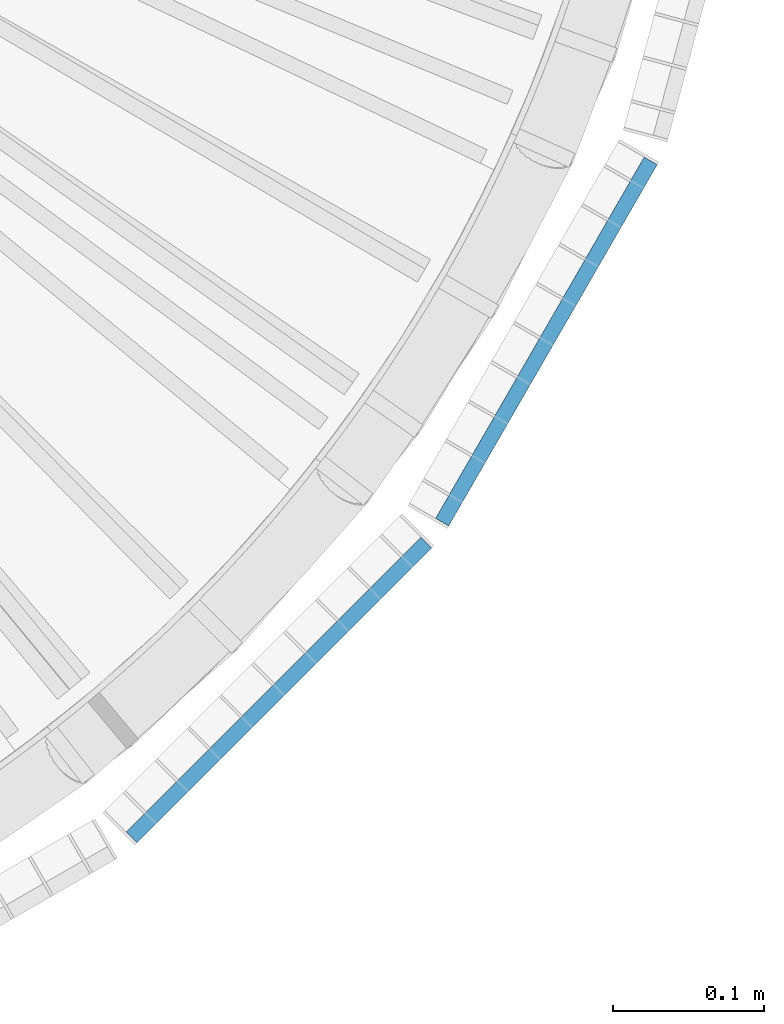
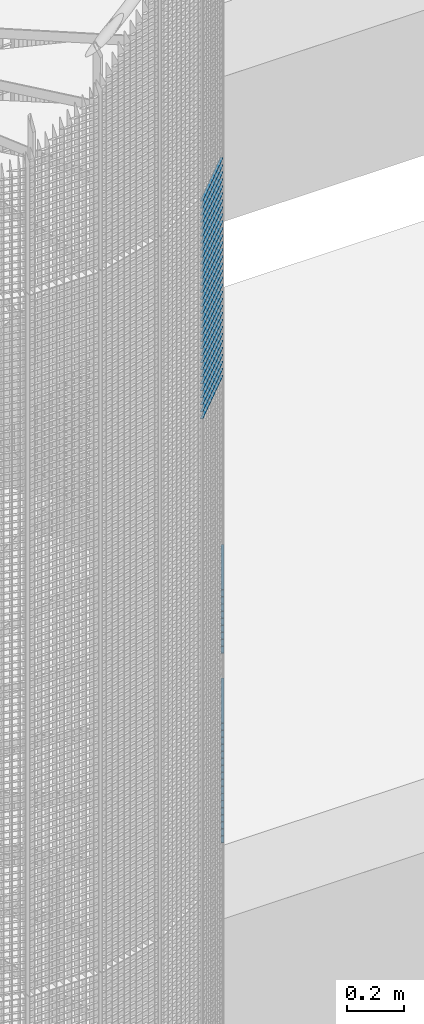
# One storey, part 236 of 1148: 60 beams, 2 elements without a shape of their own.
"""IFC2X3 building model written with IfcOpenShell, lengths in millimetres."""

from ifc_helpers import new_model, si_unit, frame, origin_with_axes, origin_2d_with_axis, place, context, subcontext, project, spatial, rectangle, extrude, material, type_object, element, aggregate, save


model = new_model("IFC2X3")

# Units and contexts
model_context = context("Model", 3, precision=1e-05, world=origin_with_axes())
body_context = subcontext(model_context, "Body", "Model", "MODEL_VIEW")
ifc_project = project(units=[si_unit("LENGTHUNIT", "METRE", prefix="MILLI"), si_unit("AREAUNIT", "SQUARE_METRE"), si_unit("VOLUMEUNIT", "CUBIC_METRE"), si_unit("MASSUNIT", "GRAM", prefix="KILO"), si_unit("TIMEUNIT", "SECOND"), si_unit("PLANEANGLEUNIT", "RADIAN"), si_unit("SOLIDANGLEUNIT", "STERADIAN"), si_unit("THERMODYNAMICTEMPERATUREUNIT", "DEGREE_CELSIUS"), si_unit("LUMINOUSINTENSITYUNIT", "LUMEN")], contexts=[model_context])

# Site, building, storey
site_placement = place(None, origin_with_axes())
site = spatial("IfcSite", under=ifc_project, at=site_placement, Name="Undefined", CompositionType="ELEMENT")
building_placement = place(site_placement, origin_with_axes())
building = spatial("IfcBuilding", under=site, at=building_placement, Name="Undefined", CompositionType="ELEMENT")
storey_placement = place(building_placement, origin_with_axes())
storey = spatial("IfcBuildingStorey", under=building, at=storey_placement, Name="Undefined", CompositionType="ELEMENT", Elevation=0.0)

# Assembly, beams
assembly_1_placement = place(storey_placement, origin_with_axes())
assembly_1 = element("IfcElementAssembly", 1, at=assembly_1_placement, inside=storey, Name="BORDURE", AssemblyPlace="NOTDEFINED", PredefinedType="NOTDEFINED")
ifc_material = material(Name="STEEL/S235JR")
beam_type = type_object("IfcBeamType", Name="PL2*10", PredefinedType="NOTDEFINED")
beam_1_placement = place(assembly_1_placement, frame((895.30396491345, -676.248044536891, 9540.0), z_axis=(0.866025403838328, -0.49999999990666, 0.0), x_axis=(0.49999999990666, 0.866025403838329, 0.0)))
beam_1 = element("IfcBeam", 2, at=beam_1_placement, type_object=beam_type, material=ifc_material, Name="ENTRETOISE", context=body_context, shape_type="SweptSolid", body=[
    extrude(rectangle(XDim=2.0, YDim=10.0, at=origin_2d_with_axis()), frame((275.999999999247, 9.09494701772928e-13, 1.53210777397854e-14), z_axis=(-1.0, 0.0, 0.0), x_axis=(0.0, -1.0, 0.0)), (0.0, 0.0, 1.0), 276.0),
])
beam_2_placement = place(assembly_1_placement, frame((895.303964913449, -676.248044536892, 9840.0), z_axis=(0.866025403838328, -0.49999999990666, 0.0), x_axis=(0.49999999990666, 0.866025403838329, 0.0)))
beam_2 = element("IfcBeam", 3, at=beam_2_placement, type_object=beam_type, material=ifc_material, Name="ENTRETOISE", context=body_context, shape_type="SweptSolid", body=[
    extrude(rectangle(XDim=2.0, YDim=10.0, at=origin_2d_with_axis()), frame((275.999999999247, 9.09494701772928e-13, 1.53210777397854e-14), z_axis=(-1.0, 0.0, 0.0), x_axis=(0.0, -1.0, 0.0)), (0.0, 0.0, 1.0), 276.0),
])
beam_3_placement = place(assembly_1_placement, frame((895.303964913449, -676.248044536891, 9510.0), z_axis=(0.866025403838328, -0.49999999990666, 0.0), x_axis=(0.49999999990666, 0.866025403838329, 0.0)))
beam_3 = element("IfcBeam", 4, at=beam_3_placement, type_object=beam_type, material=ifc_material, Name="ENTRETOISE", context=body_context, shape_type="SweptSolid", body=[
    extrude(rectangle(XDim=2.0, YDim=10.0, at=origin_2d_with_axis()), frame((275.999999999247, 9.09494701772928e-13, 1.53210777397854e-14), z_axis=(-1.0, 0.0, 0.0), x_axis=(0.0, -1.0, 0.0)), (0.0, 0.0, 1.0), 276.0),
])
beam_4_placement = place(assembly_1_placement, frame((895.303964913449, -676.248044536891, 9480.0), z_axis=(0.866025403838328, -0.49999999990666, 0.0), x_axis=(0.49999999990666, 0.866025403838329, 0.0)))
beam_4 = element("IfcBeam", 5, at=beam_4_placement, type_object=beam_type, material=ifc_material, Name="ENTRETOISE", context=body_context, shape_type="SweptSolid", body=[
    extrude(rectangle(XDim=2.0, YDim=10.0, at=origin_2d_with_axis()), frame((275.999999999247, 9.09494701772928e-13, 1.53210777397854e-14), z_axis=(-1.0, 0.0, 0.0), x_axis=(0.0, -1.0, 0.0)), (0.0, 0.0, 1.0), 276.0),
])
beam_5_placement = place(assembly_1_placement, frame((895.303964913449, -676.248044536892, 9870.0), z_axis=(0.866025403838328, -0.49999999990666, 0.0), x_axis=(0.49999999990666, 0.866025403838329, 0.0)))
beam_5 = element("IfcBeam", 6, at=beam_5_placement, type_object=beam_type, material=ifc_material, Name="ENTRETOISE", context=body_context, shape_type="SweptSolid", body=[
    extrude(rectangle(XDim=2.0, YDim=10.0, at=origin_2d_with_axis()), frame((275.999999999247, 9.09494701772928e-13, 1.53210777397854e-14), z_axis=(-1.0, 0.0, 0.0), x_axis=(0.0, -1.0, 0.0)), (0.0, 0.0, 1.0), 276.0),
])
beam_6_placement = place(assembly_1_placement, frame((895.30396491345, -676.248044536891, 9450.0), z_axis=(0.866025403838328, -0.49999999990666, 0.0), x_axis=(0.49999999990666, 0.866025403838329, 0.0)))
beam_6 = element("IfcBeam", 7, at=beam_6_placement, type_object=beam_type, material=ifc_material, Name="ENTRETOISE", context=body_context, shape_type="SweptSolid", body=[
    extrude(rectangle(XDim=2.0, YDim=10.0, at=origin_2d_with_axis()), frame((275.999999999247, 9.09494701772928e-13, 1.53210777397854e-14), z_axis=(-1.0, 0.0, 0.0), x_axis=(0.0, -1.0, 0.0)), (0.0, 0.0, 1.0), 276.0),
])
beam_7_placement = place(assembly_1_placement, frame((895.30396491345, -676.24804453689, 9420.0), z_axis=(0.866025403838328, -0.49999999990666, 0.0), x_axis=(0.49999999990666, 0.866025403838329, 0.0)))
beam_7 = element("IfcBeam", 8, at=beam_7_placement, type_object=beam_type, material=ifc_material, Name="ENTRETOISE", context=body_context, shape_type="SweptSolid", body=[
    extrude(rectangle(XDim=2.0, YDim=10.0, at=origin_2d_with_axis()), frame((275.999999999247, 9.09494701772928e-13, 1.53210777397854e-14), z_axis=(-1.0, 0.0, 0.0), x_axis=(0.0, -1.0, 0.0)), (0.0, 0.0, 1.0), 276.0),
])
beam_8_placement = place(assembly_1_placement, frame((895.303964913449, -676.248044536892, 9900.0), z_axis=(0.866025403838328, -0.49999999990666, 0.0), x_axis=(0.49999999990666, 0.866025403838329, 0.0)))
beam_8 = element("IfcBeam", 9, at=beam_8_placement, type_object=beam_type, material=ifc_material, Name="ENTRETOISE", context=body_context, shape_type="SweptSolid", body=[
    extrude(rectangle(XDim=2.0, YDim=10.0, at=origin_2d_with_axis()), frame((275.999999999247, 9.09494701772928e-13, 1.53210777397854e-14), z_axis=(-1.0, 0.0, 0.0), x_axis=(0.0, -1.0, 0.0)), (0.0, 0.0, 1.0), 276.0),
])
beam_9_placement = place(assembly_1_placement, frame((895.30396491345, -676.24804453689, 9390.0), z_axis=(0.866025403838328, -0.49999999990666, 0.0), x_axis=(0.49999999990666, 0.866025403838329, 0.0)))
beam_9 = element("IfcBeam", 10, at=beam_9_placement, type_object=beam_type, material=ifc_material, Name="ENTRETOISE", context=body_context, shape_type="SweptSolid", body=[
    extrude(rectangle(XDim=2.0, YDim=10.0, at=origin_2d_with_axis()), frame((275.999999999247, 9.09494701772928e-13, 1.53210777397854e-14), z_axis=(-1.0, 0.0, 0.0), x_axis=(0.0, -1.0, 0.0)), (0.0, 0.0, 1.0), 276.0),
])
beam_10_placement = place(assembly_1_placement, frame((895.303964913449, -676.248044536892, 9930.0), z_axis=(0.866025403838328, -0.49999999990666, 0.0), x_axis=(0.49999999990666, 0.866025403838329, 0.0)))
beam_10 = element("IfcBeam", 11, at=beam_10_placement, type_object=beam_type, material=ifc_material, Name="ENTRETOISE", context=body_context, shape_type="SweptSolid", body=[
    extrude(rectangle(XDim=2.0, YDim=10.0, at=origin_2d_with_axis()), frame((275.999999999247, 9.09494701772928e-13, 1.53210777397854e-14), z_axis=(-1.0, 0.0, 0.0), x_axis=(0.0, -1.0, 0.0)), (0.0, 0.0, 1.0), 276.0),
])
beam_11_placement = place(assembly_1_placement, frame((895.30396491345, -676.24804453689, 9360.0), z_axis=(0.866025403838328, -0.49999999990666, 0.0), x_axis=(0.49999999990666, 0.866025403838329, 0.0)))
beam_11 = element("IfcBeam", 12, at=beam_11_placement, type_object=beam_type, material=ifc_material, Name="ENTRETOISE", context=body_context, shape_type="SweptSolid", body=[
    extrude(rectangle(XDim=2.0, YDim=10.0, at=origin_2d_with_axis()), frame((275.999999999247, 9.09494701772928e-13, 1.53210777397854e-14), z_axis=(-1.0, 0.0, 0.0), x_axis=(0.0, -1.0, 0.0)), (0.0, 0.0, 1.0), 276.0),
])
beam_12_placement = place(assembly_1_placement, frame((895.30396491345, -676.24804453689, 9330.0), z_axis=(0.866025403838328, -0.49999999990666, 0.0), x_axis=(0.49999999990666, 0.866025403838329, 0.0)))
beam_12 = element("IfcBeam", 13, at=beam_12_placement, type_object=beam_type, material=ifc_material, Name="ENTRETOISE", context=body_context, shape_type="SweptSolid", body=[
    extrude(rectangle(XDim=2.0, YDim=10.0, at=origin_2d_with_axis()), frame((275.999999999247, 9.09494701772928e-13, 1.53210777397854e-14), z_axis=(-1.0, 0.0, 0.0), x_axis=(0.0, -1.0, 0.0)), (0.0, 0.0, 1.0), 276.0),
])
beam_13_placement = place(assembly_1_placement, frame((895.303964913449, -676.248044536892, 9960.0), z_axis=(0.866025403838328, -0.49999999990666, 0.0), x_axis=(0.49999999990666, 0.866025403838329, 0.0)))
beam_13 = element("IfcBeam", 14, at=beam_13_placement, type_object=beam_type, material=ifc_material, Name="ENTRETOISE", context=body_context, shape_type="SweptSolid", body=[
    extrude(rectangle(XDim=2.0, YDim=10.0, at=origin_2d_with_axis()), frame((275.999999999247, 9.09494701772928e-13, 1.53210777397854e-14), z_axis=(-1.0, 0.0, 0.0), x_axis=(0.0, -1.0, 0.0)), (0.0, 0.0, 1.0), 276.0),
])
beam_14_placement = place(assembly_1_placement, frame((895.30396491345, -676.24804453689, 9300.0), z_axis=(0.866025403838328, -0.49999999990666, 0.0), x_axis=(0.49999999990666, 0.866025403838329, 0.0)))
beam_14 = element("IfcBeam", 15, at=beam_14_placement, type_object=beam_type, material=ifc_material, Name="ENTRETOISE", context=body_context, shape_type="SweptSolid", body=[
    extrude(rectangle(XDim=2.0, YDim=10.0, at=origin_2d_with_axis()), frame((275.999999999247, 9.09494701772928e-13, 1.53210777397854e-14), z_axis=(-1.0, 0.0, 0.0), x_axis=(0.0, -1.0, 0.0)), (0.0, 0.0, 1.0), 276.0),
])
beam_15_placement = place(assembly_1_placement, frame((895.30396491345, -676.24804453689, 9270.0), z_axis=(0.866025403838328, -0.49999999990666, 0.0), x_axis=(0.49999999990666, 0.866025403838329, 0.0)))
beam_15 = element("IfcBeam", 16, at=beam_15_placement, type_object=beam_type, material=ifc_material, Name="ENTRETOISE", context=body_context, shape_type="SweptSolid", body=[
    extrude(rectangle(XDim=2.0, YDim=10.0, at=origin_2d_with_axis()), frame((275.999999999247, 9.09494701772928e-13, 1.53210777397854e-14), z_axis=(-1.0, 0.0, 0.0), x_axis=(0.0, -1.0, 0.0)), (0.0, 0.0, 1.0), 276.0),
])
beam_16_placement = place(assembly_1_placement, frame((895.303964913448, -676.248044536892, 9990.0), z_axis=(0.866025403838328, -0.49999999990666, 0.0), x_axis=(0.49999999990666, 0.866025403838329, 0.0)))
beam_16 = element("IfcBeam", 17, at=beam_16_placement, type_object=beam_type, material=ifc_material, Name="ENTRETOISE", context=body_context, shape_type="SweptSolid", body=[
    extrude(rectangle(XDim=2.0, YDim=10.0, at=origin_2d_with_axis()), frame((275.999999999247, 9.09494701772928e-13, 1.53210777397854e-14), z_axis=(-1.0, 0.0, 0.0), x_axis=(0.0, -1.0, 0.0)), (0.0, 0.0, 1.0), 276.0),
])
beam_17_placement = place(assembly_1_placement, frame((895.30396491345, -676.24804453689, 9240.0), z_axis=(0.866025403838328, -0.49999999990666, 0.0), x_axis=(0.49999999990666, 0.866025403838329, 0.0)))
beam_17 = element("IfcBeam", 18, at=beam_17_placement, type_object=beam_type, material=ifc_material, Name="ENTRETOISE", context=body_context, shape_type="SweptSolid", body=[
    extrude(rectangle(XDim=2.0, YDim=10.0, at=origin_2d_with_axis()), frame((275.999999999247, 9.09494701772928e-13, 1.53210777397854e-14), z_axis=(-1.0, 0.0, 0.0), x_axis=(0.0, -1.0, 0.0)), (0.0, 0.0, 1.0), 276.0),
])
beam_18_placement = place(assembly_1_placement, frame((895.303964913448, -676.248044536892, 10020.0), z_axis=(0.866025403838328, -0.49999999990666, 0.0), x_axis=(0.49999999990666, 0.866025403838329, 0.0)))
beam_18 = element("IfcBeam", 19, at=beam_18_placement, type_object=beam_type, material=ifc_material, Name="ENTRETOISE", context=body_context, shape_type="SweptSolid", body=[
    extrude(rectangle(XDim=2.0, YDim=10.0, at=origin_2d_with_axis()), frame((275.999999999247, 9.09494701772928e-13, 1.53210777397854e-14), z_axis=(-1.0, 0.0, 0.0), x_axis=(0.0, -1.0, 0.0)), (0.0, 0.0, 1.0), 276.0),
])
beam_19_placement = place(assembly_1_placement, frame((895.30396491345, -676.24804453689, 9210.0), z_axis=(0.866025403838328, -0.49999999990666, 0.0), x_axis=(0.49999999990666, 0.866025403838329, 0.0)))
beam_19 = element("IfcBeam", 20, at=beam_19_placement, type_object=beam_type, material=ifc_material, Name="ENTRETOISE", context=body_context, shape_type="SweptSolid", body=[
    extrude(rectangle(XDim=2.0, YDim=10.0, at=origin_2d_with_axis()), frame((275.999999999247, 9.09494701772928e-13, 1.53210777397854e-14), z_axis=(-1.0, 0.0, 0.0), x_axis=(0.0, -1.0, 0.0)), (0.0, 0.0, 1.0), 276.0),
])
beam_20_placement = place(assembly_1_placement, frame((895.30396491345, -676.24804453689, 9180.0), z_axis=(0.866025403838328, -0.49999999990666, 0.0), x_axis=(0.49999999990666, 0.866025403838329, 0.0)))
beam_20 = element("IfcBeam", 21, at=beam_20_placement, type_object=beam_type, material=ifc_material, Name="ENTRETOISE", context=body_context, shape_type="SweptSolid", body=[
    extrude(rectangle(XDim=2.0, YDim=10.0, at=origin_2d_with_axis()), frame((275.999999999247, 9.09494701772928e-13, 1.53210777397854e-14), z_axis=(-1.0, 0.0, 0.0), x_axis=(0.0, -1.0, 0.0)), (0.0, 0.0, 1.0), 276.0),
])
beam_21_placement = place(assembly_1_placement, frame((895.303964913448, -676.248044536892, 10050.0), z_axis=(0.866025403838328, -0.49999999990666, 0.0), x_axis=(0.49999999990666, 0.866025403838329, 0.0)))
beam_21 = element("IfcBeam", 22, at=beam_21_placement, type_object=beam_type, material=ifc_material, Name="ENTRETOISE", context=body_context, shape_type="SweptSolid", body=[
    extrude(rectangle(XDim=2.0, YDim=10.0, at=origin_2d_with_axis()), frame((275.999999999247, 9.09494701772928e-13, 1.53210777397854e-14), z_axis=(-1.0, 0.0, 0.0), x_axis=(0.0, -1.0, 0.0)), (0.0, 0.0, 1.0), 276.0),
])
beam_22_placement = place(assembly_1_placement, frame((895.30396491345, -676.24804453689, 9150.0), z_axis=(0.866025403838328, -0.49999999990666, 0.0), x_axis=(0.49999999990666, 0.866025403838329, 0.0)))
beam_22 = element("IfcBeam", 23, at=beam_22_placement, type_object=beam_type, material=ifc_material, Name="ENTRETOISE", context=body_context, shape_type="SweptSolid", body=[
    extrude(rectangle(XDim=2.0, YDim=10.0, at=origin_2d_with_axis()), frame((275.999999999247, 9.09494701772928e-13, 1.53210777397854e-14), z_axis=(-1.0, 0.0, 0.0), x_axis=(0.0, -1.0, 0.0)), (0.0, 0.0, 1.0), 276.0),
])
beam_23_placement = place(assembly_1_placement, frame((895.30396491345, -676.24804453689, 9120.0), z_axis=(0.866025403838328, -0.49999999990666, 0.0), x_axis=(0.49999999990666, 0.866025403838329, 0.0)))
beam_23 = element("IfcBeam", 24, at=beam_23_placement, type_object=beam_type, material=ifc_material, Name="ENTRETOISE", context=body_context, shape_type="SweptSolid", body=[
    extrude(rectangle(XDim=2.0, YDim=10.0, at=origin_2d_with_axis()), frame((275.999999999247, 9.09494701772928e-13, 1.53210777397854e-14), z_axis=(-1.0, 0.0, 0.0), x_axis=(0.0, -1.0, 0.0)), (0.0, 0.0, 1.0), 276.0),
])
beam_24_placement = place(assembly_1_placement, frame((895.303964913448, -676.248044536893, 10080.0), z_axis=(0.866025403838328, -0.49999999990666, 0.0), x_axis=(0.49999999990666, 0.866025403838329, 0.0)))
beam_24 = element("IfcBeam", 25, at=beam_24_placement, type_object=beam_type, material=ifc_material, Name="ENTRETOISE", context=body_context, shape_type="SweptSolid", body=[
    extrude(rectangle(XDim=2.0, YDim=10.0, at=origin_2d_with_axis()), frame((275.999999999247, 9.09494701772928e-13, 1.53210777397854e-14), z_axis=(-1.0, 0.0, 0.0), x_axis=(0.0, -1.0, 0.0)), (0.0, 0.0, 1.0), 276.0),
])
beam_25_placement = place(assembly_1_placement, frame((895.30396491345, -676.248044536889, 9090.0), z_axis=(0.866025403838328, -0.49999999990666, 0.0), x_axis=(0.49999999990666, 0.866025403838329, 0.0)))
beam_25 = element("IfcBeam", 26, at=beam_25_placement, type_object=beam_type, material=ifc_material, Name="ENTRETOISE", context=body_context, shape_type="SweptSolid", body=[
    extrude(rectangle(XDim=2.0, YDim=10.0, at=origin_2d_with_axis()), frame((275.999999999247, 9.09494701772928e-13, 1.53210777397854e-14), z_axis=(-1.0, 0.0, 0.0), x_axis=(0.0, -1.0, 0.0)), (0.0, 0.0, 1.0), 276.0),
])
beam_26_placement = place(assembly_1_placement, frame((895.30396491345, -676.248044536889, 9060.0), z_axis=(0.866025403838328, -0.49999999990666, 0.0), x_axis=(0.49999999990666, 0.866025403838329, 0.0)))
beam_26 = element("IfcBeam", 27, at=beam_26_placement, type_object=beam_type, material=ifc_material, Name="ENTRETOISE", context=body_context, shape_type="SweptSolid", body=[
    extrude(rectangle(XDim=2.0, YDim=10.0, at=origin_2d_with_axis()), frame((275.999999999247, 9.09494701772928e-13, 1.53210777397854e-14), z_axis=(-1.0, 0.0, 0.0), x_axis=(0.0, -1.0, 0.0)), (0.0, 0.0, 1.0), 276.0),
])
beam_27_placement = place(assembly_1_placement, frame((895.303964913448, -676.248044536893, 10110.0), z_axis=(0.866025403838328, -0.49999999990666, 0.0), x_axis=(0.49999999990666, 0.866025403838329, 0.0)))
beam_27 = element("IfcBeam", 28, at=beam_27_placement, type_object=beam_type, material=ifc_material, Name="ENTRETOISE", context=body_context, shape_type="SweptSolid", body=[
    extrude(rectangle(XDim=2.0, YDim=10.0, at=origin_2d_with_axis()), frame((275.999999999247, 9.09494701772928e-13, 1.53210777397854e-14), z_axis=(-1.0, 0.0, 0.0), x_axis=(0.0, -1.0, 0.0)), (0.0, 0.0, 1.0), 276.0),
])
beam_28_placement = place(assembly_1_placement, frame((895.30396491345, -676.248044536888, 9030.0), z_axis=(0.866025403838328, -0.49999999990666, 0.0), x_axis=(0.49999999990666, 0.866025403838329, 0.0)))
beam_28 = element("IfcBeam", 29, at=beam_28_placement, type_object=beam_type, material=ifc_material, Name="ENTRETOISE", context=body_context, shape_type="SweptSolid", body=[
    extrude(rectangle(XDim=2.0, YDim=10.0, at=origin_2d_with_axis()), frame((275.999999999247, 9.09494701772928e-13, 1.53210777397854e-14), z_axis=(-1.0, 0.0, 0.0), x_axis=(0.0, -1.0, 0.0)), (0.0, 0.0, 1.0), 276.0),
])
aggregate(assembly_1, [beam_1, beam_2, beam_3, beam_4, beam_5, beam_6, beam_7, beam_8, beam_9, beam_10, beam_11, beam_12, beam_13, beam_14, beam_15, beam_16, beam_17, beam_18, beam_19, beam_20, beam_21, beam_22, beam_23, beam_24, beam_25, beam_26, beam_27, beam_28])

assembly_2_placement = place(storey_placement, origin_with_axes())
assembly_2 = element("IfcElementAssembly", 30, at=assembly_2_placement, inside=storey, Name="BORDURE", AssemblyPlace="NOTDEFINED", PredefinedType="NOTDEFINED")
beam_29_placement = place(assembly_2_placement, frame((689.771348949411, -884.927168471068, 11970.0), z_axis=(0.707106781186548, -0.707106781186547, 0.0), x_axis=(0.707106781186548, 0.707106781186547, 0.0)))
beam_29 = element("IfcBeam", 31, at=beam_29_placement, type_object=beam_type, material=ifc_material, Name="ENTRETOISE", context=body_context, shape_type="SweptSolid", body=[
    extrude(rectangle(XDim=2.0, YDim=10.0, at=origin_2d_with_axis()), frame((275.999999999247, 9.09494701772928e-13, 1.53210777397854e-14), z_axis=(-1.0, 0.0, 0.0), x_axis=(0.0, -1.0, 0.0)), (0.0, 0.0, 1.0), 276.0),
])
beam_30_placement = place(assembly_2_placement, frame((689.771348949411, -884.927168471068, 11940.0), z_axis=(0.707106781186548, -0.707106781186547, 0.0), x_axis=(0.707106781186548, 0.707106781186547, 0.0)))
beam_30 = element("IfcBeam", 32, at=beam_30_placement, type_object=beam_type, material=ifc_material, Name="ENTRETOISE", context=body_context, shape_type="SweptSolid", body=[
    extrude(rectangle(XDim=2.0, YDim=10.0, at=origin_2d_with_axis()), frame((275.999999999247, 9.09494701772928e-13, 1.53210777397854e-14), z_axis=(-1.0, 0.0, 0.0), x_axis=(0.0, -1.0, 0.0)), (0.0, 0.0, 1.0), 276.0),
])
beam_31_placement = place(assembly_2_placement, frame((689.771348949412, -884.927168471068, 11910.0), z_axis=(0.707106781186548, -0.707106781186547, 0.0), x_axis=(0.707106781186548, 0.707106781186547, 0.0)))
beam_31 = element("IfcBeam", 33, at=beam_31_placement, type_object=beam_type, material=ifc_material, Name="ENTRETOISE", context=body_context, shape_type="SweptSolid", body=[
    extrude(rectangle(XDim=2.0, YDim=10.0, at=origin_2d_with_axis()), frame((275.999999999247, 9.09494701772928e-13, 1.53210777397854e-14), z_axis=(-1.0, 0.0, 0.0), x_axis=(0.0, -1.0, 0.0)), (0.0, 0.0, 1.0), 276.0),
])
beam_32_placement = place(assembly_2_placement, frame((689.771348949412, -884.927168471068, 11880.0), z_axis=(0.707106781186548, -0.707106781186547, 0.0), x_axis=(0.707106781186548, 0.707106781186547, 0.0)))
beam_32 = element("IfcBeam", 34, at=beam_32_placement, type_object=beam_type, material=ifc_material, Name="ENTRETOISE", context=body_context, shape_type="SweptSolid", body=[
    extrude(rectangle(XDim=2.0, YDim=10.0, at=origin_2d_with_axis()), frame((275.999999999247, 9.09494701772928e-13, 1.53210777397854e-14), z_axis=(-1.0, 0.0, 0.0), x_axis=(0.0, -1.0, 0.0)), (0.0, 0.0, 1.0), 276.0),
])
beam_33_placement = place(assembly_2_placement, frame((689.771348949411, -884.927168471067, 11850.0), z_axis=(0.707106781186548, -0.707106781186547, 0.0), x_axis=(0.707106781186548, 0.707106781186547, 0.0)))
beam_33 = element("IfcBeam", 35, at=beam_33_placement, type_object=beam_type, material=ifc_material, Name="ENTRETOISE", context=body_context, shape_type="SweptSolid", body=[
    extrude(rectangle(XDim=2.0, YDim=10.0, at=origin_2d_with_axis()), frame((275.999999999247, 9.09494701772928e-13, 1.53210777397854e-14), z_axis=(-1.0, 0.0, 0.0), x_axis=(0.0, -1.0, 0.0)), (0.0, 0.0, 1.0), 276.0),
])
beam_34_placement = place(assembly_2_placement, frame((689.771348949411, -884.927168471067, 11820.0), z_axis=(0.707106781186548, -0.707106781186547, 0.0), x_axis=(0.707106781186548, 0.707106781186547, 0.0)))
beam_34 = element("IfcBeam", 36, at=beam_34_placement, type_object=beam_type, material=ifc_material, Name="ENTRETOISE", context=body_context, shape_type="SweptSolid", body=[
    extrude(rectangle(XDim=2.0, YDim=10.0, at=origin_2d_with_axis()), frame((275.999999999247, 9.09494701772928e-13, 1.53210777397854e-14), z_axis=(-1.0, 0.0, 0.0), x_axis=(0.0, -1.0, 0.0)), (0.0, 0.0, 1.0), 276.0),
])
beam_35_placement = place(assembly_2_placement, frame((689.771348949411, -884.927168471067, 11790.0), z_axis=(0.707106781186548, -0.707106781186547, 0.0), x_axis=(0.707106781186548, 0.707106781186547, 0.0)))
beam_35 = element("IfcBeam", 37, at=beam_35_placement, type_object=beam_type, material=ifc_material, Name="ENTRETOISE", context=body_context, shape_type="SweptSolid", body=[
    extrude(rectangle(XDim=2.0, YDim=10.0, at=origin_2d_with_axis()), frame((275.999999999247, 9.09494701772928e-13, 1.53210777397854e-14), z_axis=(-1.0, 0.0, 0.0), x_axis=(0.0, -1.0, 0.0)), (0.0, 0.0, 1.0), 276.0),
])
beam_36_placement = place(assembly_2_placement, frame((689.771348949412, -884.927168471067, 11760.0), z_axis=(0.707106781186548, -0.707106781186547, 0.0), x_axis=(0.707106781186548, 0.707106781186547, 0.0)))
beam_36 = element("IfcBeam", 38, at=beam_36_placement, type_object=beam_type, material=ifc_material, Name="ENTRETOISE", context=body_context, shape_type="SweptSolid", body=[
    extrude(rectangle(XDim=2.0, YDim=10.0, at=origin_2d_with_axis()), frame((275.999999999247, 9.09494701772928e-13, 1.53210777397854e-14), z_axis=(-1.0, 0.0, 0.0), x_axis=(0.0, -1.0, 0.0)), (0.0, 0.0, 1.0), 276.0),
])
beam_37_placement = place(assembly_2_placement, frame((689.771348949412, -884.927168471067, 11730.0), z_axis=(0.707106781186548, -0.707106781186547, 0.0), x_axis=(0.707106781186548, 0.707106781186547, 0.0)))
beam_37 = element("IfcBeam", 39, at=beam_37_placement, type_object=beam_type, material=ifc_material, Name="ENTRETOISE", context=body_context, shape_type="SweptSolid", body=[
    extrude(rectangle(XDim=2.0, YDim=10.0, at=origin_2d_with_axis()), frame((275.999999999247, 9.09494701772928e-13, 1.53210777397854e-14), z_axis=(-1.0, 0.0, 0.0), x_axis=(0.0, -1.0, 0.0)), (0.0, 0.0, 1.0), 276.0),
])
beam_38_placement = place(assembly_2_placement, frame((689.771348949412, -884.927168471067, 11700.0), z_axis=(0.707106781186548, -0.707106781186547, 0.0), x_axis=(0.707106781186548, 0.707106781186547, 0.0)))
beam_38 = element("IfcBeam", 40, at=beam_38_placement, type_object=beam_type, material=ifc_material, Name="ENTRETOISE", context=body_context, shape_type="SweptSolid", body=[
    extrude(rectangle(XDim=2.0, YDim=10.0, at=origin_2d_with_axis()), frame((275.999999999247, 9.09494701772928e-13, 1.53210777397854e-14), z_axis=(-1.0, 0.0, 0.0), x_axis=(0.0, -1.0, 0.0)), (0.0, 0.0, 1.0), 276.0),
])
beam_39_placement = place(assembly_2_placement, frame((689.771348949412, -884.927168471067, 11670.0), z_axis=(0.707106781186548, -0.707106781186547, 0.0), x_axis=(0.707106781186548, 0.707106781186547, 0.0)))
beam_39 = element("IfcBeam", 41, at=beam_39_placement, type_object=beam_type, material=ifc_material, Name="ENTRETOISE", context=body_context, shape_type="SweptSolid", body=[
    extrude(rectangle(XDim=2.0, YDim=10.0, at=origin_2d_with_axis()), frame((275.999999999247, 9.09494701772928e-13, 1.53210777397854e-14), z_axis=(-1.0, 0.0, 0.0), x_axis=(0.0, -1.0, 0.0)), (0.0, 0.0, 1.0), 276.0),
])
beam_40_placement = place(assembly_2_placement, frame((689.771348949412, -884.927168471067, 11640.0), z_axis=(0.707106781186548, -0.707106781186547, 0.0), x_axis=(0.707106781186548, 0.707106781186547, 0.0)))
beam_40 = element("IfcBeam", 42, at=beam_40_placement, type_object=beam_type, material=ifc_material, Name="ENTRETOISE", context=body_context, shape_type="SweptSolid", body=[
    extrude(rectangle(XDim=2.0, YDim=10.0, at=origin_2d_with_axis()), frame((275.999999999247, 9.09494701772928e-13, 1.53210777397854e-14), z_axis=(-1.0, 0.0, 0.0), x_axis=(0.0, -1.0, 0.0)), (0.0, 0.0, 1.0), 276.0),
])
beam_41_placement = place(assembly_2_placement, frame((689.771348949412, -884.927168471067, 11610.0), z_axis=(0.707106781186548, -0.707106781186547, 0.0), x_axis=(0.707106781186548, 0.707106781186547, 0.0)))
beam_41 = element("IfcBeam", 43, at=beam_41_placement, type_object=beam_type, material=ifc_material, Name="ENTRETOISE", context=body_context, shape_type="SweptSolid", body=[
    extrude(rectangle(XDim=2.0, YDim=10.0, at=origin_2d_with_axis()), frame((275.999999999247, 9.09494701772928e-13, 1.53210777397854e-14), z_axis=(-1.0, 0.0, 0.0), x_axis=(0.0, -1.0, 0.0)), (0.0, 0.0, 1.0), 276.0),
])
beam_42_placement = place(assembly_2_placement, frame((689.771348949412, -884.927168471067, 11580.0), z_axis=(0.707106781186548, -0.707106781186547, 0.0), x_axis=(0.707106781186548, 0.707106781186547, 0.0)))
beam_42 = element("IfcBeam", 44, at=beam_42_placement, type_object=beam_type, material=ifc_material, Name="ENTRETOISE", context=body_context, shape_type="SweptSolid", body=[
    extrude(rectangle(XDim=2.0, YDim=10.0, at=origin_2d_with_axis()), frame((275.999999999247, 9.09494701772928e-13, 1.53210777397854e-14), z_axis=(-1.0, 0.0, 0.0), x_axis=(0.0, -1.0, 0.0)), (0.0, 0.0, 1.0), 276.0),
])
beam_43_placement = place(assembly_2_placement, frame((689.771348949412, -884.927168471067, 11550.0), z_axis=(0.707106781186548, -0.707106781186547, 0.0), x_axis=(0.707106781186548, 0.707106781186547, 0.0)))
beam_43 = element("IfcBeam", 45, at=beam_43_placement, type_object=beam_type, material=ifc_material, Name="ENTRETOISE", context=body_context, shape_type="SweptSolid", body=[
    extrude(rectangle(XDim=2.0, YDim=10.0, at=origin_2d_with_axis()), frame((275.999999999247, 9.09494701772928e-13, 1.53210777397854e-14), z_axis=(-1.0, 0.0, 0.0), x_axis=(0.0, -1.0, 0.0)), (0.0, 0.0, 1.0), 276.0),
])
beam_44_placement = place(assembly_2_placement, frame((689.771348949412, -884.927168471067, 11520.0), z_axis=(0.707106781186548, -0.707106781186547, 0.0), x_axis=(0.707106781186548, 0.707106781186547, 0.0)))
beam_44 = element("IfcBeam", 46, at=beam_44_placement, type_object=beam_type, material=ifc_material, Name="ENTRETOISE", context=body_context, shape_type="SweptSolid", body=[
    extrude(rectangle(XDim=2.0, YDim=10.0, at=origin_2d_with_axis()), frame((275.999999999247, 9.09494701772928e-13, 1.53210777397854e-14), z_axis=(-1.0, 0.0, 0.0), x_axis=(0.0, -1.0, 0.0)), (0.0, 0.0, 1.0), 276.0),
])
beam_45_placement = place(assembly_2_placement, frame((689.771348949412, -884.927168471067, 11490.0), z_axis=(0.707106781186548, -0.707106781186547, 0.0), x_axis=(0.707106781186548, 0.707106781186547, 0.0)))
beam_45 = element("IfcBeam", 47, at=beam_45_placement, type_object=beam_type, material=ifc_material, Name="ENTRETOISE", context=body_context, shape_type="SweptSolid", body=[
    extrude(rectangle(XDim=2.0, YDim=10.0, at=origin_2d_with_axis()), frame((275.999999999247, 9.09494701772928e-13, 1.53210777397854e-14), z_axis=(-1.0, 0.0, 0.0), x_axis=(0.0, -1.0, 0.0)), (0.0, 0.0, 1.0), 276.0),
])
beam_46_placement = place(assembly_2_placement, frame((689.771348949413, -884.927168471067, 11460.0), z_axis=(0.707106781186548, -0.707106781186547, 0.0), x_axis=(0.707106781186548, 0.707106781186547, 0.0)))
beam_46 = element("IfcBeam", 48, at=beam_46_placement, type_object=beam_type, material=ifc_material, Name="ENTRETOISE", context=body_context, shape_type="SweptSolid", body=[
    extrude(rectangle(XDim=2.0, YDim=10.0, at=origin_2d_with_axis()), frame((275.999999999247, 9.09494701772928e-13, 1.53210777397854e-14), z_axis=(-1.0, 0.0, 0.0), x_axis=(0.0, -1.0, 0.0)), (0.0, 0.0, 1.0), 276.0),
])
beam_47_placement = place(assembly_2_placement, frame((689.771348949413, -884.927168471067, 11430.0), z_axis=(0.707106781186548, -0.707106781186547, 0.0), x_axis=(0.707106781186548, 0.707106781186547, 0.0)))
beam_47 = element("IfcBeam", 49, at=beam_47_placement, type_object=beam_type, material=ifc_material, Name="ENTRETOISE", context=body_context, shape_type="SweptSolid", body=[
    extrude(rectangle(XDim=2.0, YDim=10.0, at=origin_2d_with_axis()), frame((275.999999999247, 9.09494701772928e-13, 1.53210777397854e-14), z_axis=(-1.0, 0.0, 0.0), x_axis=(0.0, -1.0, 0.0)), (0.0, 0.0, 1.0), 276.0),
])
beam_48_placement = place(assembly_2_placement, frame((689.771348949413, -884.927168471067, 11400.0), z_axis=(0.707106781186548, -0.707106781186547, 0.0), x_axis=(0.707106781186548, 0.707106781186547, 0.0)))
beam_48 = element("IfcBeam", 50, at=beam_48_placement, type_object=beam_type, material=ifc_material, Name="ENTRETOISE", context=body_context, shape_type="SweptSolid", body=[
    extrude(rectangle(XDim=2.0, YDim=10.0, at=origin_2d_with_axis()), frame((275.999999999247, 9.09494701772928e-13, 1.53210777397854e-14), z_axis=(-1.0, 0.0, 0.0), x_axis=(0.0, -1.0, 0.0)), (0.0, 0.0, 1.0), 276.0),
])
beam_49_placement = place(assembly_2_placement, frame((689.771348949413, -884.927168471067, 11370.0), z_axis=(0.707106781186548, -0.707106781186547, 0.0), x_axis=(0.707106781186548, 0.707106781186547, 0.0)))
beam_49 = element("IfcBeam", 51, at=beam_49_placement, type_object=beam_type, material=ifc_material, Name="ENTRETOISE", context=body_context, shape_type="SweptSolid", body=[
    extrude(rectangle(XDim=2.0, YDim=10.0, at=origin_2d_with_axis()), frame((275.999999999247, 9.09494701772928e-13, 1.53210777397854e-14), z_axis=(-1.0, 0.0, 0.0), x_axis=(0.0, -1.0, 0.0)), (0.0, 0.0, 1.0), 276.0),
])
beam_50_placement = place(assembly_2_placement, frame((689.771348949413, -884.927168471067, 11340.0), z_axis=(0.707106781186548, -0.707106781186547, 0.0), x_axis=(0.707106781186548, 0.707106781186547, 0.0)))
beam_50 = element("IfcBeam", 52, at=beam_50_placement, type_object=beam_type, material=ifc_material, Name="ENTRETOISE", context=body_context, shape_type="SweptSolid", body=[
    extrude(rectangle(XDim=2.0, YDim=10.0, at=origin_2d_with_axis()), frame((275.999999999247, 9.09494701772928e-13, 1.53210777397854e-14), z_axis=(-1.0, 0.0, 0.0), x_axis=(0.0, -1.0, 0.0)), (0.0, 0.0, 1.0), 276.0),
])
beam_51_placement = place(assembly_2_placement, frame((689.771348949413, -884.927168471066, 11310.0), z_axis=(0.707106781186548, -0.707106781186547, 0.0), x_axis=(0.707106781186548, 0.707106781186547, 0.0)))
beam_51 = element("IfcBeam", 53, at=beam_51_placement, type_object=beam_type, material=ifc_material, Name="ENTRETOISE", context=body_context, shape_type="SweptSolid", body=[
    extrude(rectangle(XDim=2.0, YDim=10.0, at=origin_2d_with_axis()), frame((275.999999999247, 9.09494701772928e-13, 1.53210777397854e-14), z_axis=(-1.0, 0.0, 0.0), x_axis=(0.0, -1.0, 0.0)), (0.0, 0.0, 1.0), 276.0),
])
beam_52_placement = place(assembly_2_placement, frame((689.771348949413, -884.927168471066, 11280.0), z_axis=(0.707106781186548, -0.707106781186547, 0.0), x_axis=(0.707106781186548, 0.707106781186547, 0.0)))
beam_52 = element("IfcBeam", 54, at=beam_52_placement, type_object=beam_type, material=ifc_material, Name="ENTRETOISE", context=body_context, shape_type="SweptSolid", body=[
    extrude(rectangle(XDim=2.0, YDim=10.0, at=origin_2d_with_axis()), frame((275.999999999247, 9.09494701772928e-13, 1.53210777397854e-14), z_axis=(-1.0, 0.0, 0.0), x_axis=(0.0, -1.0, 0.0)), (0.0, 0.0, 1.0), 276.0),
])
beam_53_placement = place(assembly_2_placement, frame((689.771348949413, -884.927168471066, 11250.0), z_axis=(0.707106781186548, -0.707106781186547, 0.0), x_axis=(0.707106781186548, 0.707106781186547, 0.0)))
beam_53 = element("IfcBeam", 55, at=beam_53_placement, type_object=beam_type, material=ifc_material, Name="ENTRETOISE", context=body_context, shape_type="SweptSolid", body=[
    extrude(rectangle(XDim=2.0, YDim=10.0, at=origin_2d_with_axis()), frame((275.999999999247, 9.09494701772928e-13, 1.53210777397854e-14), z_axis=(-1.0, 0.0, 0.0), x_axis=(0.0, -1.0, 0.0)), (0.0, 0.0, 1.0), 276.0),
])
beam_54_placement = place(assembly_2_placement, frame((689.771348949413, -884.927168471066, 11220.0), z_axis=(0.707106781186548, -0.707106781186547, 0.0), x_axis=(0.707106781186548, 0.707106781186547, 0.0)))
beam_54 = element("IfcBeam", 56, at=beam_54_placement, type_object=beam_type, material=ifc_material, Name="ENTRETOISE", context=body_context, shape_type="SweptSolid", body=[
    extrude(rectangle(XDim=2.0, YDim=10.0, at=origin_2d_with_axis()), frame((275.999999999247, 9.09494701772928e-13, 1.53210777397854e-14), z_axis=(-1.0, 0.0, 0.0), x_axis=(0.0, -1.0, 0.0)), (0.0, 0.0, 1.0), 276.0),
])
beam_55_placement = place(assembly_2_placement, frame((689.771348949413, -884.927168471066, 11190.0), z_axis=(0.707106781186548, -0.707106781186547, 0.0), x_axis=(0.707106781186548, 0.707106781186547, 0.0)))
beam_55 = element("IfcBeam", 57, at=beam_55_placement, type_object=beam_type, material=ifc_material, Name="ENTRETOISE", context=body_context, shape_type="SweptSolid", body=[
    extrude(rectangle(XDim=2.0, YDim=10.0, at=origin_2d_with_axis()), frame((275.999999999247, 9.09494701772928e-13, 1.53210777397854e-14), z_axis=(-1.0, 0.0, 0.0), x_axis=(0.0, -1.0, 0.0)), (0.0, 0.0, 1.0), 276.0),
])
beam_56_placement = place(assembly_2_placement, frame((689.771348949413, -884.927168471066, 11160.0), z_axis=(0.707106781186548, -0.707106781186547, 0.0), x_axis=(0.707106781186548, 0.707106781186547, 0.0)))
beam_56 = element("IfcBeam", 58, at=beam_56_placement, type_object=beam_type, material=ifc_material, Name="ENTRETOISE", context=body_context, shape_type="SweptSolid", body=[
    extrude(rectangle(XDim=2.0, YDim=10.0, at=origin_2d_with_axis()), frame((275.999999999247, 9.09494701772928e-13, 1.53210777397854e-14), z_axis=(-1.0, 0.0, 0.0), x_axis=(0.0, -1.0, 0.0)), (0.0, 0.0, 1.0), 276.0),
])
beam_57_placement = place(assembly_2_placement, frame((689.771348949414, -884.927168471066, 11130.0), z_axis=(0.707106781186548, -0.707106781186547, 0.0), x_axis=(0.707106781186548, 0.707106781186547, 0.0)))
beam_57 = element("IfcBeam", 59, at=beam_57_placement, type_object=beam_type, material=ifc_material, Name="ENTRETOISE", context=body_context, shape_type="SweptSolid", body=[
    extrude(rectangle(XDim=2.0, YDim=10.0, at=origin_2d_with_axis()), frame((275.999999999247, 9.09494701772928e-13, 1.53210777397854e-14), z_axis=(-1.0, 0.0, 0.0), x_axis=(0.0, -1.0, 0.0)), (0.0, 0.0, 1.0), 276.0),
])
beam_58_placement = place(assembly_2_placement, frame((689.771348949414, -884.927168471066, 11100.0), z_axis=(0.707106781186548, -0.707106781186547, 0.0), x_axis=(0.707106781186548, 0.707106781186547, 0.0)))
beam_58 = element("IfcBeam", 60, at=beam_58_placement, type_object=beam_type, material=ifc_material, Name="ENTRETOISE", context=body_context, shape_type="SweptSolid", body=[
    extrude(rectangle(XDim=2.0, YDim=10.0, at=origin_2d_with_axis()), frame((275.999999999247, 9.09494701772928e-13, 1.53210777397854e-14), z_axis=(-1.0, 0.0, 0.0), x_axis=(0.0, -1.0, 0.0)), (0.0, 0.0, 1.0), 276.0),
])
beam_59_placement = place(assembly_2_placement, frame((689.771348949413, -884.927168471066, 11070.0), z_axis=(0.707106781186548, -0.707106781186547, 0.0), x_axis=(0.707106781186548, 0.707106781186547, 0.0)))
beam_59 = element("IfcBeam", 61, at=beam_59_placement, type_object=beam_type, material=ifc_material, Name="ENTRETOISE", context=body_context, shape_type="SweptSolid", body=[
    extrude(rectangle(XDim=2.0, YDim=10.0, at=origin_2d_with_axis()), frame((275.999999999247, 9.09494701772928e-13, 1.53210777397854e-14), z_axis=(-1.0, 0.0, 0.0), x_axis=(0.0, -1.0, 0.0)), (0.0, 0.0, 1.0), 276.0),
])
beam_60_placement = place(assembly_2_placement, frame((689.771348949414, -884.927168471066, 11040.0), z_axis=(0.707106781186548, -0.707106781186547, 0.0), x_axis=(0.707106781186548, 0.707106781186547, 0.0)))
beam_60 = element("IfcBeam", 62, at=beam_60_placement, type_object=beam_type, material=ifc_material, Name="ENTRETOISE", context=body_context, shape_type="SweptSolid", body=[
    extrude(rectangle(XDim=2.0, YDim=10.0, at=origin_2d_with_axis()), frame((275.999999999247, 9.09494701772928e-13, 1.53210777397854e-14), z_axis=(-1.0, 0.0, 0.0), x_axis=(0.0, -1.0, 0.0)), (0.0, 0.0, 1.0), 276.0),
])
aggregate(assembly_2, [beam_29, beam_30, beam_31, beam_32, beam_33, beam_34, beam_35, beam_36, beam_37, beam_38, beam_39, beam_40, beam_41, beam_42, beam_43, beam_44, beam_45, beam_46, beam_47, beam_48, beam_49, beam_50, beam_51, beam_52, beam_53, beam_54, beam_55, beam_56, beam_57, beam_58, beam_59, beam_60])

save(model, "model.ifc")
